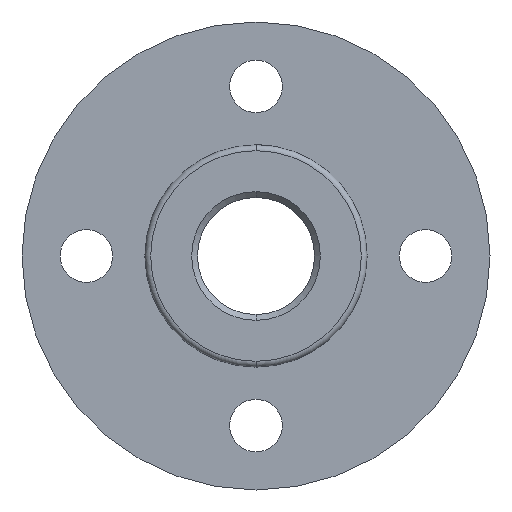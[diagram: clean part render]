
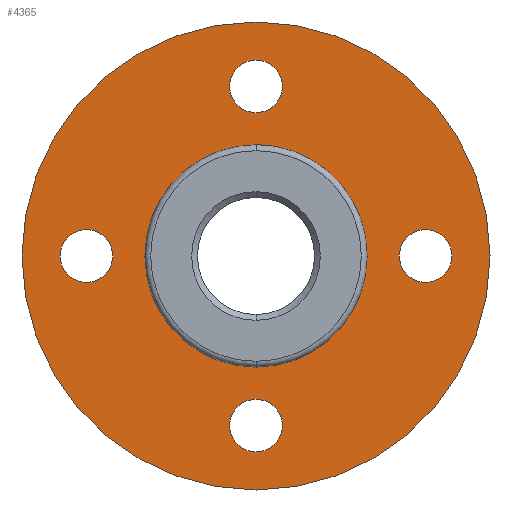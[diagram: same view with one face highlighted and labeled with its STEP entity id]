
A CAD part, front view. The second image highlights one B-rep face of the part: STEP entity #4365.
In plain terms, the highlighted planar face has unit normal (0, -1, 0).
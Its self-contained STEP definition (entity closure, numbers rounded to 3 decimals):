
#46 = AXIS2_PLACEMENT_3D ( 'NONE', #5418, #2596, #7131 ) ;
#275 = DIRECTION ( 'NONE',  ( 0., 1., 0. ) ) ;
#295 = DIRECTION ( 'NONE',  ( 0., 0., 1. ) ) ;
#380 = AXIS2_PLACEMENT_3D ( 'NONE', #985, #3182, #3271 ) ;
#522 = CARTESIAN_POINT ( 'NONE',  ( 0., 0., -20. ) ) ;
#655 = EDGE_LOOP ( 'NONE', ( #4553, #6221 ) ) ;
#706 = ORIENTED_EDGE ( 'NONE', *, *, #4457, .T. ) ;
#800 = EDGE_CURVE ( 'NONE', #6355, #1815, #2989, .T. ) ;
#851 = CARTESIAN_POINT ( 'NONE',  ( 0., 0., 0. ) ) ;
#858 = ORIENTED_EDGE ( 'NONE', *, *, #800, .T. ) ;
#935 = CIRCLE ( 'NONE', #2108, 9.5 ) ;
#983 = EDGE_CURVE ( 'NONE', #5520, #2640, #2559, .T. ) ;
#985 = CARTESIAN_POINT ( 'NONE',  ( 0., 0., -14.5 ) ) ;
#1072 = CARTESIAN_POINT ( 'NONE',  ( 0., 0., 20. ) ) ;
#1189 = EDGE_LOOP ( 'NONE', ( #5709, #706 ) ) ;
#1210 = VERTEX_POINT ( 'NONE', #1072 ) ;
#1402 = AXIS2_PLACEMENT_3D ( 'NONE', #1985, #7033, #3704 ) ;
#1415 = CARTESIAN_POINT ( 'NONE',  ( 0., 0., 9.5 ) ) ;
#1547 = FACE_BOUND ( 'NONE', #5879, .T. ) ;
#1607 = CARTESIAN_POINT ( 'NONE',  ( 0., 0., 12.25 ) ) ;
#1646 = CIRCLE ( 'NONE', #4101, 9.5 ) ;
#1774 = AXIS2_PLACEMENT_3D ( 'NONE', #3174, #5934, #4842 ) ;
#1812 = FACE_OUTER_BOUND ( 'NONE', #655, .T. ) ;
#1815 = VERTEX_POINT ( 'NONE', #3625 ) ;
#1827 = CARTESIAN_POINT ( 'NONE',  ( -14.5, 0., 0. ) ) ;
#1907 = EDGE_CURVE ( 'NONE', #2141, #1210, #6114, .T. ) ;
#1923 = DIRECTION ( 'NONE',  ( 0., 1., 0. ) ) ;
#1946 = EDGE_CURVE ( 'NONE', #5945, #3073, #1646, .T. ) ;
#1985 = CARTESIAN_POINT ( 'NONE',  ( 0., 0., 0. ) ) ;
#2030 = DIRECTION ( 'NONE',  ( 0., 0., 1. ) ) ;
#2108 = AXIS2_PLACEMENT_3D ( 'NONE', #6396, #3590, #4168 ) ;
#2141 = VERTEX_POINT ( 'NONE', #522 ) ;
#2173 = CIRCLE ( 'NONE', #1402, 20. ) ;
#2220 = EDGE_LOOP ( 'NONE', ( #5416, #3419 ) ) ;
#2285 = AXIS2_PLACEMENT_3D ( 'NONE', #1827, #2918, #6202 ) ;
#2330 = EDGE_CURVE ( 'NONE', #6067, #7110, #3832, .T. ) ;
#2499 = DIRECTION ( 'NONE',  ( 0., 0., 1. ) ) ;
#2553 = DIRECTION ( 'NONE',  ( 0., 1., 0. ) ) ;
#2559 = CIRCLE ( 'NONE', #6302, 2.25 ) ;
#2596 = DIRECTION ( 'NONE',  ( 0., 1., 0. ) ) ;
#2600 = CARTESIAN_POINT ( 'NONE',  ( 0., 0., -14.5 ) ) ;
#2640 = VERTEX_POINT ( 'NONE', #5185 ) ;
#2918 = DIRECTION ( 'NONE',  ( 0., 1., 0. ) ) ;
#2989 = CIRCLE ( 'NONE', #2285, 2.25 ) ;
#3073 = VERTEX_POINT ( 'NONE', #1415 ) ;
#3121 = CARTESIAN_POINT ( 'NONE',  ( 0., 0., 0. ) ) ;
#3140 = CIRCLE ( 'NONE', #46, 2.25 ) ;
#3174 = CARTESIAN_POINT ( 'NONE',  ( -14.5, 0., 0. ) ) ;
#3182 = DIRECTION ( 'NONE',  ( 0., 1., 0. ) ) ;
#3226 = FACE_BOUND ( 'NONE', #2220, .T. ) ;
#3228 = ORIENTED_EDGE ( 'NONE', *, *, #6895, .T. ) ;
#3271 = DIRECTION ( 'NONE',  ( 0., 0., 1. ) ) ;
#3419 = ORIENTED_EDGE ( 'NONE', *, *, #1946, .T. ) ;
#3485 = EDGE_CURVE ( 'NONE', #3073, #5945, #935, .T. ) ;
#3495 = AXIS2_PLACEMENT_3D ( 'NONE', #851, #1923, #4761 ) ;
#3590 = DIRECTION ( 'NONE',  ( 0., 1., 0. ) ) ;
#3608 = DIRECTION ( 'NONE',  ( 0., 0., 1. ) ) ;
#3625 = CARTESIAN_POINT ( 'NONE',  ( -14.5, 0., -2.25 ) ) ;
#3629 = CARTESIAN_POINT ( 'NONE',  ( 0., 0., -12.25 ) ) ;
#3664 = ORIENTED_EDGE ( 'NONE', *, *, #5027, .T. ) ;
#3685 = ORIENTED_EDGE ( 'NONE', *, *, #4352, .T. ) ;
#3704 = DIRECTION ( 'NONE',  ( 0., 0., 1. ) ) ;
#3832 = CIRCLE ( 'NONE', #5144, 2.25 ) ;
#3917 = EDGE_LOOP ( 'NONE', ( #858, #3950 ) ) ;
#3950 = ORIENTED_EDGE ( 'NONE', *, *, #5410, .T. ) ;
#3962 = CARTESIAN_POINT ( 'NONE',  ( -14.5, 0., 2.25 ) ) ;
#4011 = CARTESIAN_POINT ( 'NONE',  ( 0., 0., 16.75 ) ) ;
#4101 = AXIS2_PLACEMENT_3D ( 'NONE', #3121, #275, #295 ) ;
#4168 = DIRECTION ( 'NONE',  ( 0., 0., 1. ) ) ;
#4258 = FACE_BOUND ( 'NONE', #3917, .T. ) ;
#4339 = CIRCLE ( 'NONE', #6594, 2.25 ) ;
#4348 = CARTESIAN_POINT ( 'NONE',  ( 14.5, 0., -2.25 ) ) ;
#4352 = EDGE_CURVE ( 'NONE', #6938, #6666, #4339, .T. ) ;
#4365 = ADVANCED_FACE ( 'NONE', ( #3226, #1547, #5852, #7055, #4258, #1812 ), #7025, .F. ) ;
#4457 = EDGE_CURVE ( 'NONE', #7110, #6067, #3140, .T. ) ;
#4553 = ORIENTED_EDGE ( 'NONE', *, *, #1907, .F. ) ;
#4606 = CIRCLE ( 'NONE', #1774, 2.25 ) ;
#4761 = DIRECTION ( 'NONE',  ( 0., 0., 1. ) ) ;
#4768 = DIRECTION ( 'NONE',  ( 0., 1., 0. ) ) ;
#4808 = CARTESIAN_POINT ( 'NONE',  ( 14.5, 0., 2.25 ) ) ;
#4842 = DIRECTION ( 'NONE',  ( 0., 0., 1. ) ) ;
#4857 = DIRECTION ( 'NONE',  ( 0., 0., 1. ) ) ;
#4970 = CIRCLE ( 'NONE', #380, 2.25 ) ;
#4993 = EDGE_CURVE ( 'NONE', #1210, #2141, #2173, .T. ) ;
#5027 = EDGE_CURVE ( 'NONE', #2640, #5520, #4970, .T. ) ;
#5144 = AXIS2_PLACEMENT_3D ( 'NONE', #5984, #5381, #2030 ) ;
#5185 = CARTESIAN_POINT ( 'NONE',  ( 0., 0., -16.75 ) ) ;
#5208 = EDGE_LOOP ( 'NONE', ( #3685, #3228 ) ) ;
#5348 = DIRECTION ( 'NONE',  ( 0., 1., 0. ) ) ;
#5381 = DIRECTION ( 'NONE',  ( 0., 1., 0. ) ) ;
#5410 = EDGE_CURVE ( 'NONE', #1815, #6355, #4606, .T. ) ;
#5416 = ORIENTED_EDGE ( 'NONE', *, *, #3485, .T. ) ;
#5418 = CARTESIAN_POINT ( 'NONE',  ( 0., 0., 14.5 ) ) ;
#5474 = AXIS2_PLACEMENT_3D ( 'NONE', #7003, #6951, #3608 ) ;
#5520 = VERTEX_POINT ( 'NONE', #3629 ) ;
#5709 = ORIENTED_EDGE ( 'NONE', *, *, #2330, .T. ) ;
#5811 = AXIS2_PLACEMENT_3D ( 'NONE', #6505, #5348, #4857 ) ;
#5852 = FACE_BOUND ( 'NONE', #5208, .T. ) ;
#5879 = EDGE_LOOP ( 'NONE', ( #5979, #3664 ) ) ;
#5934 = DIRECTION ( 'NONE',  ( 0., 1., 0. ) ) ;
#5945 = VERTEX_POINT ( 'NONE', #6406 ) ;
#5979 = ORIENTED_EDGE ( 'NONE', *, *, #983, .T. ) ;
#5984 = CARTESIAN_POINT ( 'NONE',  ( 0., 0., 14.5 ) ) ;
#6067 = VERTEX_POINT ( 'NONE', #4011 ) ;
#6114 = CIRCLE ( 'NONE', #3495, 20. ) ;
#6202 = DIRECTION ( 'NONE',  ( 0., 0., 1. ) ) ;
#6221 = ORIENTED_EDGE ( 'NONE', *, *, #4993, .F. ) ;
#6302 = AXIS2_PLACEMENT_3D ( 'NONE', #2600, #2553, #6982 ) ;
#6355 = VERTEX_POINT ( 'NONE', #3962 ) ;
#6366 = CARTESIAN_POINT ( 'NONE',  ( 14.5, 0., 0. ) ) ;
#6396 = CARTESIAN_POINT ( 'NONE',  ( 0., 0., 0. ) ) ;
#6406 = CARTESIAN_POINT ( 'NONE',  ( 0., 0., -9.5 ) ) ;
#6505 = CARTESIAN_POINT ( 'NONE',  ( 14.5, 0., 0. ) ) ;
#6594 = AXIS2_PLACEMENT_3D ( 'NONE', #6366, #4768, #2499 ) ;
#6609 = CIRCLE ( 'NONE', #5811, 2.25 ) ;
#6666 = VERTEX_POINT ( 'NONE', #4348 ) ;
#6895 = EDGE_CURVE ( 'NONE', #6666, #6938, #6609, .T. ) ;
#6938 = VERTEX_POINT ( 'NONE', #4808 ) ;
#6951 = DIRECTION ( 'NONE',  ( 0., 1., 0. ) ) ;
#6982 = DIRECTION ( 'NONE',  ( 0., 0., 1. ) ) ;
#7003 = CARTESIAN_POINT ( 'NONE',  ( 0., 0., 0. ) ) ;
#7025 = PLANE ( 'NONE',  #5474 ) ;
#7033 = DIRECTION ( 'NONE',  ( 0., 1., 0. ) ) ;
#7055 = FACE_BOUND ( 'NONE', #1189, .T. ) ;
#7110 = VERTEX_POINT ( 'NONE', #1607 ) ;
#7131 = DIRECTION ( 'NONE',  ( 0., 0., 1. ) ) ;
